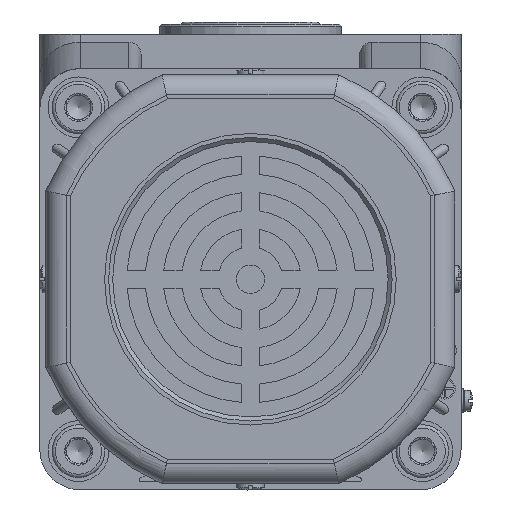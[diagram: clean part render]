
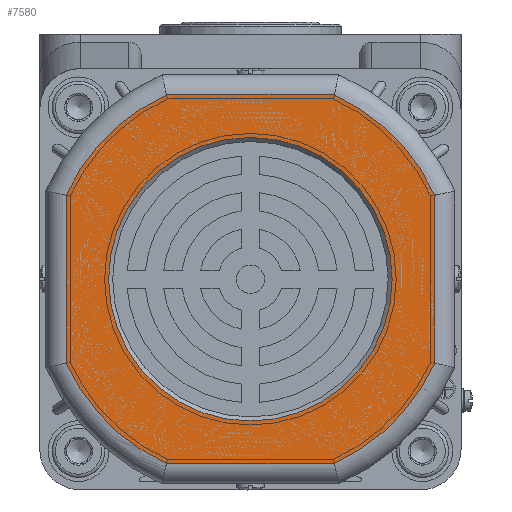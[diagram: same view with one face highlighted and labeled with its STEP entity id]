
A CAD part, left-side view. The second image highlights one B-rep face of the part: STEP entity #7580.
In plain terms, the highlighted planar face has unit normal (-1, 0, 0).
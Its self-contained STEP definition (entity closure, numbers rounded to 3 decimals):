
#1132=LINE('',#42687,#2770);
#1133=LINE('',#42703,#2771);
#1136=LINE('',#42755,#2774);
#1137=LINE('',#42771,#2775);
#2770=VECTOR('',#34426,1.);
#2771=VECTOR('',#34429,1.);
#2774=VECTOR('',#34446,1.);
#2775=VECTOR('',#34449,1.);
#5120=PLANE('',#30310);
#6417=FACE_BOUND('',#10820,.T.);
#6418=FACE_BOUND('',#10821,.T.);
#7580=ADVANCED_FACE('',(#6417,#6418),#5120,.F.);
#10820=EDGE_LOOP('',(#14636));
#10821=EDGE_LOOP('',(#14637,#14638,#14639,#14640,#14641,#14642,#14643,#14644));
#14636=ORIENTED_EDGE('',*,*,#24204,.T.);
#14637=ORIENTED_EDGE('',*,*,#24214,.T.);
#14638=ORIENTED_EDGE('',*,*,#24209,.T.);
#14639=ORIENTED_EDGE('',*,*,#24216,.T.);
#14640=ORIENTED_EDGE('',*,*,#24222,.T.);
#14641=ORIENTED_EDGE('',*,*,#24228,.T.);
#14642=ORIENTED_EDGE('',*,*,#24230,.T.);
#14643=ORIENTED_EDGE('',*,*,#24226,.T.);
#14644=ORIENTED_EDGE('',*,*,#24220,.T.);
#21139=VERTEX_POINT('',#42632);
#21144=VERTEX_POINT('',#42654);
#21145=VERTEX_POINT('',#42656);
#21147=VERTEX_POINT('',#42684);
#21150=VERTEX_POINT('',#42702);
#21151=VERTEX_POINT('',#42718);
#21154=VERTEX_POINT('',#42736);
#21155=VERTEX_POINT('',#42752);
#21158=VERTEX_POINT('',#42770);
#24204=EDGE_CURVE('',#21139,#21139,#28082,.T.);
#24209=EDGE_CURVE('',#21145,#21144,#28086,.T.);
#24214=EDGE_CURVE('',#21147,#21145,#1132,.T.);
#24216=EDGE_CURVE('',#21144,#21150,#1133,.T.);
#24220=EDGE_CURVE('',#21151,#21147,#28089,.T.);
#24222=EDGE_CURVE('',#21150,#21154,#28090,.T.);
#24226=EDGE_CURVE('',#21155,#21151,#1136,.T.);
#24228=EDGE_CURVE('',#21154,#21158,#1137,.T.);
#24230=EDGE_CURVE('',#21158,#21155,#28092,.T.);
#28082=CIRCLE('',#30048,35.);
#28086=CIRCLE('',#30054,50.);
#28089=CIRCLE('',#30060,50.);
#28090=CIRCLE('',#30062,50.);
#28092=CIRCLE('',#30067,50.);
#30048=AXIS2_PLACEMENT_3D('',#42631,#34407,#34408);
#30054=AXIS2_PLACEMENT_3D('',#42655,#34419,#34420);
#30060=AXIS2_PLACEMENT_3D('',#42721,#34435,#34436);
#30062=AXIS2_PLACEMENT_3D('',#42737,#34439,#34440);
#30067=AXIS2_PLACEMENT_3D('',#42774,#34453,#34454);
#30310=AXIS2_PLACEMENT_3D('',#43523,#35131,#35132);
#34407=DIRECTION('',(1.,0.,0.));
#34408=DIRECTION('',(0.,-1.,0.));
#34419=DIRECTION('',(-1.,0.,0.));
#34420=DIRECTION('',(0.,0.,1.));
#34426=DIRECTION('',(0.,-1.,0.));
#34429=DIRECTION('',(0.,0.,1.));
#34435=DIRECTION('',(-1.,0.,0.));
#34436=DIRECTION('',(0.,0.,1.));
#34439=DIRECTION('',(-1.,0.,0.));
#34440=DIRECTION('',(0.,0.,1.));
#34446=DIRECTION('',(0.,0.,-1.));
#34449=DIRECTION('',(0.,1.,0.));
#34453=DIRECTION('',(-1.,0.,0.));
#34454=DIRECTION('',(0.,0.,1.));
#35131=DIRECTION('',(1.,0.,0.));
#35132=DIRECTION('',(0.,0.,1.));
#42631=CARTESIAN_POINT('',(-228.8,-120.671,-58.491));
#42632=CARTESIAN_POINT('',(-228.8,-155.671,-58.491));
#42654=CARTESIAN_POINT('',(-228.8,-166.171,-79.221));
#42655=CARTESIAN_POINT('',(-228.8,-120.671,-58.491));
#42656=CARTESIAN_POINT('',(-228.8,-141.402,-103.991));
#42684=CARTESIAN_POINT('',(-228.8,-99.941,-103.991));
#42687=CARTESIAN_POINT('',(-228.8,-142.46,-103.991));
#42702=CARTESIAN_POINT('',(-228.8,-166.171,-37.76));
#42703=CARTESIAN_POINT('',(-228.8,-166.171,-36.702));
#42718=CARTESIAN_POINT('',(-228.8,-75.171,-79.221));
#42721=CARTESIAN_POINT('',(-228.8,-120.671,-58.491));
#42736=CARTESIAN_POINT('',(-228.8,-141.402,-12.991));
#42737=CARTESIAN_POINT('',(-228.8,-120.671,-58.491));
#42752=CARTESIAN_POINT('',(-228.8,-75.171,-37.76));
#42755=CARTESIAN_POINT('',(-228.8,-75.171,-80.28));
#42770=CARTESIAN_POINT('',(-228.8,-99.941,-12.991));
#42771=CARTESIAN_POINT('',(-228.8,-98.882,-12.991));
#42774=CARTESIAN_POINT('',(-228.8,-120.671,-58.491));
#43523=CARTESIAN_POINT('',(-228.8,-120.671,-58.491));
